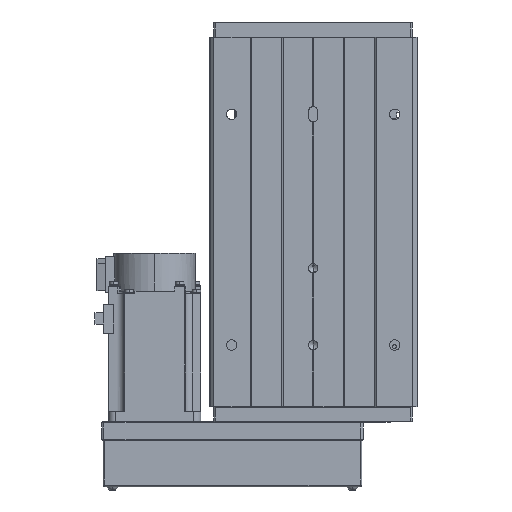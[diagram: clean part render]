
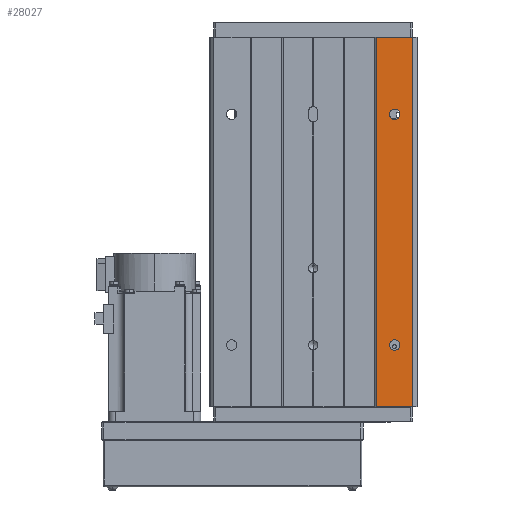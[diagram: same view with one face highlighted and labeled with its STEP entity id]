
A CAD part, front view. The second image highlights one B-rep face of the part: STEP entity #28027.
In plain terms, the highlighted planar face has unit normal (0, -1, 0).
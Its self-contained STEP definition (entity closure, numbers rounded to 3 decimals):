
#137 = LINE ( 'NONE', #12409, #15859 ) ;
#184 = VERTEX_POINT ( 'NONE', #37177 ) ;
#771 = CARTESIAN_POINT ( 'NONE',  ( -53., -1., 83.4 ) ) ;
#1055 = FACE_BOUND ( 'NONE', #35158, .T. ) ;
#1283 = CARTESIAN_POINT ( 'NONE',  ( -41., -1., -120. ) ) ;
#1620 = ORIENTED_EDGE ( 'NONE', *, *, #5630, .F. ) ;
#3979 = VERTEX_POINT ( 'NONE', #20006 ) ;
#4934 = VERTEX_POINT ( 'NONE', #33710 ) ;
#5365 = CARTESIAN_POINT ( 'NONE',  ( -53., -1., -66.6 ) ) ;
#5577 = ORIENTED_EDGE ( 'NONE', *, *, #8815, .F. ) ;
#5630 = EDGE_CURVE ( 'NONE', #32099, #26896, #24567, .T. ) ;
#5843 = DIRECTION ( 'NONE',  ( 0., -1., 0. ) ) ;
#6343 = CARTESIAN_POINT ( 'NONE',  ( -53., -1., 80. ) ) ;
#6606 = LINE ( 'NONE', #18861, #8999 ) ;
#7251 = AXIS2_PLACEMENT_3D ( 'NONE', #11300, #23542, #35783 ) ;
#7745 = LINE ( 'NONE', #19988, #32955 ) ;
#7962 = LINE ( 'NONE', #20204, #23098 ) ;
#8327 = AXIS2_PLACEMENT_3D ( 'NONE', #13684, #25920, #38166 ) ;
#8452 = VERTEX_POINT ( 'NONE', #771 ) ;
#8815 = EDGE_CURVE ( 'NONE', #3979, #184, #137, .T. ) ;
#8999 = VECTOR ( 'NONE', #31099, 1000. ) ;
#10310 = CARTESIAN_POINT ( 'NONE',  ( -40., -1., 120. ) ) ;
#11300 = CARTESIAN_POINT ( 'NONE',  ( -53., -1., -70. ) ) ;
#11930 = CARTESIAN_POINT ( 'NONE',  ( -53., -1., 76.6 ) ) ;
#12409 = CARTESIAN_POINT ( 'NONE',  ( -40., -1., 120. ) ) ;
#12894 = ORIENTED_EDGE ( 'NONE', *, *, #15132, .T. ) ;
#13323 = FACE_BOUND ( 'NONE', #15711, .T. ) ;
#13684 = CARTESIAN_POINT ( 'NONE',  ( -53., -1., -70. ) ) ;
#14711 = CARTESIAN_POINT ( 'NONE',  ( -53., -1., -73.4 ) ) ;
#14851 = EDGE_CURVE ( 'NONE', #26896, #32099, #25650, .T. ) ;
#15062 = CIRCLE ( 'NONE', #37485, 3.4 ) ;
#15121 = ORIENTED_EDGE ( 'NONE', *, *, #16615, .F. ) ;
#15132 = EDGE_CURVE ( 'NONE', #20773, #184, #6606, .T. ) ;
#15711 = EDGE_LOOP ( 'NONE', ( #1620, #36228 ) ) ;
#15859 = VECTOR ( 'NONE', #24655, 1000. ) ;
#16615 = EDGE_CURVE ( 'NONE', #4934, #3979, #7962, .T. ) ;
#16775 = AXIS2_PLACEMENT_3D ( 'NONE', #6343, #18598, #30837 ) ;
#18102 = DIRECTION ( 'NONE',  ( 0., 0., -1. ) ) ;
#18598 = DIRECTION ( 'NONE',  ( 0., -1., 0. ) ) ;
#18861 = CARTESIAN_POINT ( 'NONE',  ( -41., -1., 120. ) ) ;
#19544 = ORIENTED_EDGE ( 'NONE', *, *, #21418, .F. ) ;
#19988 = CARTESIAN_POINT ( 'NONE',  ( -40., -1., -120. ) ) ;
#20006 = CARTESIAN_POINT ( 'NONE',  ( -64.5, -1., 120. ) ) ;
#20204 = CARTESIAN_POINT ( 'NONE',  ( -64.5, -1., -120. ) ) ;
#20773 = VERTEX_POINT ( 'NONE', #1283 ) ;
#21418 = EDGE_CURVE ( 'NONE', #27254, #8452, #15062, .T. ) ;
#22556 = DIRECTION ( 'NONE',  ( 0., 1., 0. ) ) ;
#23098 = VECTOR ( 'NONE', #32445, 1000. ) ;
#23542 = DIRECTION ( 'NONE',  ( 0., -1., 0. ) ) ;
#24567 = CIRCLE ( 'NONE', #7251, 3.4 ) ;
#24655 = DIRECTION ( 'NONE',  ( 1., 0., 0. ) ) ;
#25567 = FACE_OUTER_BOUND ( 'NONE', #26696, .T. ) ;
#25650 = CIRCLE ( 'NONE', #8327, 3.4 ) ;
#25920 = DIRECTION ( 'NONE',  ( 0., -1., 0. ) ) ;
#26696 = EDGE_LOOP ( 'NONE', ( #5577, #15121, #35136, #12894 ) ) ;
#26896 = VERTEX_POINT ( 'NONE', #5365 ) ;
#27254 = VERTEX_POINT ( 'NONE', #11930 ) ;
#28027 = ADVANCED_FACE ( 'NONE', ( #1055, #13323, #25567 ), #37816, .F. ) ;
#28845 = ORIENTED_EDGE ( 'NONE', *, *, #39352, .F. ) ;
#30837 = DIRECTION ( 'NONE',  ( 0., 0., -1. ) ) ;
#31099 = DIRECTION ( 'NONE',  ( 0., 0., 1. ) ) ;
#32099 = VERTEX_POINT ( 'NONE', #14711 ) ;
#32233 = DIRECTION ( 'NONE',  ( 1., 0., 0. ) ) ;
#32445 = DIRECTION ( 'NONE',  ( 0., 0., 1. ) ) ;
#32738 = EDGE_CURVE ( 'NONE', #4934, #20773, #7745, .T. ) ;
#32955 = VECTOR ( 'NONE', #32233, 1000. ) ;
#33340 = CARTESIAN_POINT ( 'NONE',  ( -53., -1., 80. ) ) ;
#33710 = CARTESIAN_POINT ( 'NONE',  ( -64.5, -1., -120. ) ) ;
#34071 = CIRCLE ( 'NONE', #16775, 3.4 ) ;
#34801 = DIRECTION ( 'NONE',  ( -1., 0., 0. ) ) ;
#35136 = ORIENTED_EDGE ( 'NONE', *, *, #32738, .T. ) ;
#35158 = EDGE_LOOP ( 'NONE', ( #19544, #28845 ) ) ;
#35783 = DIRECTION ( 'NONE',  ( 0., 0., -1. ) ) ;
#35880 = AXIS2_PLACEMENT_3D ( 'NONE', #10310, #22556, #34801 ) ;
#36228 = ORIENTED_EDGE ( 'NONE', *, *, #14851, .F. ) ;
#37177 = CARTESIAN_POINT ( 'NONE',  ( -41., -1., 120. ) ) ;
#37485 = AXIS2_PLACEMENT_3D ( 'NONE', #33340, #5843, #18102 ) ;
#37816 = PLANE ( 'NONE',  #35880 ) ;
#38166 = DIRECTION ( 'NONE',  ( 0., 0., -1. ) ) ;
#39352 = EDGE_CURVE ( 'NONE', #8452, #27254, #34071, .T. ) ;
